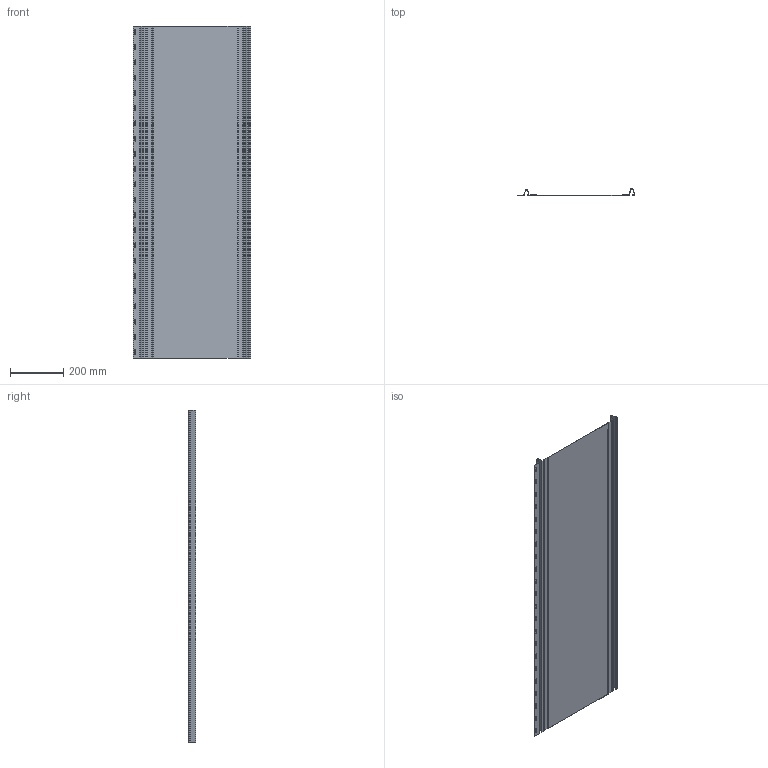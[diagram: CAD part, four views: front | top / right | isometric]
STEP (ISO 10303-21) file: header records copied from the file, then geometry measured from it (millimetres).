
FILE_DESCRIPTION(/* description */ (''),/* implementation_level */ '2;1');
FILE_NAME(/* name */ 'C:\Users\Utilisateur\Mac Metal\Site de communication - Documents\Ingénierie\1. Dessins techniques produits Mac\CAD _ REVIT Profiles drawing - MAC\MS 1 Modular\MS 1.1\MS1.1.stp',/* time_stamp */ '2023-01-27T17:17:00-05:00',/* author */ ('Utilisateur'),/* organization */ (''),/* preprocessor_version */ 'ST-DEVELOPER v18.1',/* originating_system */ 'Autodesk Inventor 2022',/* authorisation */ '');
FILE_SCHEMA (('AUTOMOTIVE_DESIGN { 1 0 10303 214 3 1 1 }'));
Length unit declared in the file: inch
Products named in the file (1): MS1.1
Bounding box: 440.7 x 26.99 x 1244.6 mm (x, y, z)
Volume: 336350.7 mm3; surface area: 1326498.1 mm2
Topology: 1 solids, 1 shells, 174 faces, 516 edges, 344 vertices
Faces by surface type: plane 90, cylinder 84
Entity records: 5999 total; most frequent: CARTESIAN_POINT 1035, DIRECTION 1034, ORIENTED_EDGE 1032, EDGE_CURVE 516, LINE 348, VECTOR 348, VERTEX_POINT 344, AXIS2_PLACEMENT_3D 343
